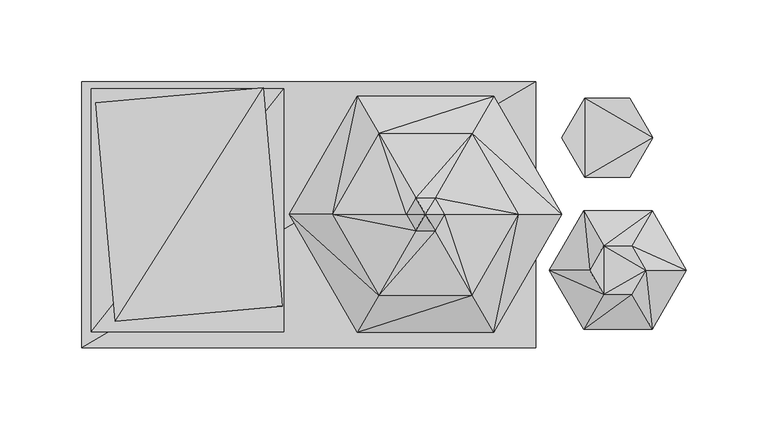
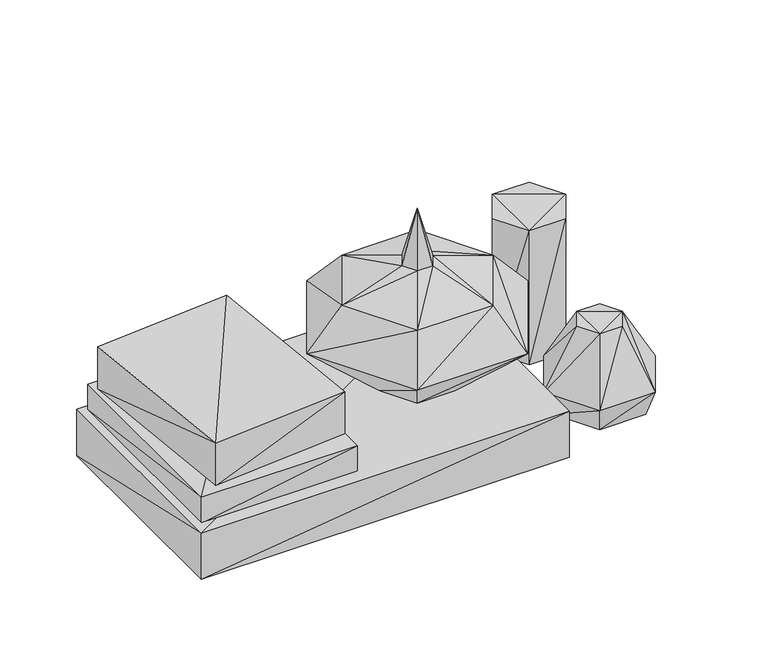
"""IFC4 building model written with IfcOpenShell, lengths in millimetres: geographic element geometry, Enscape AssetDefinition - Decoration Collection : Enscape AssetDefinition - Decoration Collection."""

from ifc_helpers import new_model, si_unit, origin, place, context, project, spatial, faceted_brep, source, transform, mapped, element, save


def geographic_element_5165f58f(model_context):
    return source(origin(), model_context, "Body", "Brep", [
        faceted_brep([(190.4051155, -34.210261, 0.0), (173.0093509, -64.3390864, 0.0), (138.2188499, -64.3390864, 0.0), (176.5386164, -70.4513565, 19.9579783), (197.4626333, -34.210261, 19.9579783), (134.6906126, -70.4513565, 19.9579783), (138.2188499, -4.0803994, 0.0), (120.8241209, -34.210261, 0.0), (176.5386164, 2.0318809, 19.9579783), (173.0093509, -4.0803994, 0.0), (134.6906126, 2.0318809, 19.9579783), (113.765575, -34.210261, 19.9579783), (138.6233568, -34.210261, 63.9605746), (147.1189857, -48.9242375, 63.9605746), (147.1189857, -19.4952413, 63.9605746), (164.1102433, -19.4952413, 63.9605746), (172.6058722, -34.210261, 63.9605746), (164.1102433, -48.9242375, 63.9605746)], [[[0, 1, 2]], [[3, 1, 4]], [[3, 2, 1]], [[4, 1, 0]], [[5, 2, 3]], [[6, 2, 7]], [[0, 2, 6]], [[5, 7, 2]], [[4, 0, 8]], [[0, 6, 9]], [[8, 0, 9]], [[10, 6, 11]], [[10, 9, 6]], [[11, 6, 7]], [[11, 7, 5]], [[12, 11, 13]], [[12, 10, 11]], [[13, 11, 5]], [[8, 9, 10]], [[14, 10, 12]], [[14, 8, 10]], [[15, 8, 14]], [[15, 4, 8]], [[14, 16, 15]], [[13, 14, 12]], [[13, 16, 14]], [[13, 17, 16]], [[13, 5, 17]], [[16, 4, 15]], [[17, 3, 16]], [[16, 3, 4]], [[17, 5, 3]]]),
        faceted_brep([(176.9057065, 46.6791838, -0.0010399), (163.0443931, 22.6699244, -0.0010399), (135.3207678, 22.6699244, -0.0010399), (163.0443931, 22.6699244, 106.7080572), (176.9057065, 46.6791838, 106.7080572), (135.3207678, 22.6699244, 106.7080572), (135.3207678, 70.6884488, -0.0010399), (121.4584336, 46.6791838, -0.0010399), (163.0443931, 70.6884488, 106.7080572), (163.0443931, 70.6884488, -0.0010399), (135.3207678, 70.6884488, 106.7080572), (121.4584336, 46.6791838, 106.7080572)], [[[0, 1, 2]], [[3, 1, 4]], [[3, 2, 1]], [[4, 1, 0]], [[5, 2, 3]], [[6, 2, 7]], [[0, 2, 6]], [[5, 7, 2]], [[4, 0, 8]], [[0, 6, 9]], [[8, 0, 9]], [[10, 6, 11]], [[10, 9, 6]], [[11, 6, 7]], [[11, 7, 5]], [[5, 10, 11]], [[5, 3, 4]], [[5, 4, 10]], [[10, 4, 8]], [[8, 9, 10]]]),
        faceted_brep([(66.2451386, 0.0, 36.8920527), (52.140519, -24.4293623, 36.8920527), (23.9323135, -24.4293623, 36.8920527), (79.7102526, -72.1816868, 85.7445374), (121.3845983, 0.0, 85.7445374), (-3.6374202, -72.1816868, 85.7445374), (23.9323135, 24.4293623, 36.8920527), (9.8276902, 0.0, 36.8920527), (79.7102526, 72.1816868, 85.7445374), (52.140519, 24.4293623, 36.8920527), (-3.6374202, 72.1816868, 85.7445374), (-45.3117751, 0.0, 85.7445374), (-19.1198532, 0.0, 115.2244881), (9.4585409, -49.4992808, 115.2244881), (9.4585409, 49.4992808, 115.2244881), (66.6142851, 49.4992808, 115.2244881), (32.1991742, 10.1094907, 130.9055388), (26.3624601, 0.0, 130.9055388), (32.1991742, -10.1094907, 130.9055388), (38.0369313, 0.0, 172.6131737), (43.8736528, 10.1094907, 130.9055388), (95.1926783, 0.0, 115.2244881), (66.6142851, -49.4992808, 115.2244881), (49.7103706, 0.0, 130.9055388), (43.8736528, -10.1094907, 130.9055388)], [[[0, 1, 2]], [[3, 1, 4]], [[3, 2, 1]], [[4, 1, 0]], [[5, 2, 3]], [[6, 2, 7]], [[0, 2, 6]], [[5, 7, 2]], [[4, 0, 8]], [[0, 6, 9]], [[8, 0, 9]], [[10, 6, 11]], [[10, 9, 6]], [[11, 6, 7]], [[11, 7, 5]], [[12, 11, 13]], [[12, 10, 11]], [[13, 11, 5]], [[8, 9, 10]], [[14, 10, 12]], [[14, 8, 10]], [[15, 8, 14]], [[15, 4, 8]], [[16, 14, 17]], [[16, 15, 14]], [[17, 14, 12]], [[17, 12, 18]], [[18, 12, 13]], [[19, 16, 17]], [[19, 17, 18]], [[20, 15, 16]], [[19, 20, 16]], [[21, 4, 15]], [[20, 21, 15]], [[21, 3, 4]], [[22, 3, 21]], [[23, 21, 20]], [[23, 22, 21]], [[19, 23, 20]], [[19, 18, 24]], [[19, 24, 23]], [[18, 13, 24]], [[24, 22, 23]], [[24, 13, 22]], [[13, 5, 22]], [[22, 5, 3]]]),
        faceted_brep([(105.3583249, -81.7306936, -0.0010399), (-172.1327454, -81.7306936, -0.0010399), (105.3583249, 80.8915272, -0.0010399), (-172.1327454, -81.7306936, 36.7828682), (105.3583249, -81.7306936, 36.7828682), (-172.1327454, 80.8915272, -0.0010399), (105.3583249, 80.8915272, 36.7828682), (-172.1327454, 80.8915272, 36.7828682)], [[[0, 1, 2]], [[3, 1, 4]], [[2, 1, 5]], [[4, 1, 0]], [[3, 5, 1]], [[6, 2, 7]], [[6, 0, 2]], [[7, 2, 5]], [[4, 0, 6]], [[6, 3, 4]], [[7, 3, 6]], [[7, 5, 3]]]),
        faceted_brep([(-48.69131, -71.8967617, 36.7735103), (-166.2014127, -71.8967617, 36.7735103), (-48.69131, 76.7653733, 36.7735103), (-166.2014127, -71.8967617, 57.3865958), (-48.69131, -71.8967617, 57.3865958), (-166.2014127, 76.7653733, 36.7735103), (-48.69131, 76.7653733, 57.3865958), (-166.2014127, 76.7653733, 57.3865958)], [[[0, 1, 2]], [[3, 1, 4]], [[2, 1, 5]], [[4, 1, 0]], [[3, 5, 1]], [[6, 2, 7]], [[6, 0, 2]], [[7, 2, 5]], [[4, 0, 6]], [[6, 3, 4]], [[7, 3, 6]], [[7, 5, 3]]]),
        faceted_brep([(-49.4264886, -56.4819165, 57.5644113), (-151.7962664, -65.4371679, 57.5644113), (-61.1113645, 77.0918876, 57.3637187), (-151.8004239, -65.3872564, 91.1725983), (-49.4306497, -56.432005, 91.1725983), (-163.4811461, 68.1366399, 57.3637187), (-61.1155257, 77.1428421, 90.971902), (-163.4853035, 68.1865513, 91.1725983)], [[[0, 1, 2]], [[3, 1, 4]], [[2, 1, 5]], [[4, 1, 0]], [[3, 5, 1]], [[6, 2, 7]], [[6, 0, 2]], [[7, 2, 5]], [[4, 0, 6]], [[6, 3, 4]], [[7, 3, 6]], [[7, 5, 3]]]),
    ])


if __name__ == "__main__":
    model = new_model("IFC4")
    model_context = context("Model", 3, world=origin())
    ifc_project = project(units=[si_unit("LENGTHUNIT", "METRE", prefix="MILLI")], contexts=[model_context])
    site = spatial("IfcSite", under=ifc_project)
    building = spatial("IfcBuilding", under=site)
    placement = place(None, origin())
    geographic_element_shape = geographic_element_5165f58f(model_context)
    element("IfcGeographicElement", 1, ObjectType="Enscape AssetDefinition - Decoration Collection : Enscape AssetDefinition - Decoration Collection", at=placement, inside=building, context=model_context, shape_type="MappedRepresentation", body=[
        mapped(geographic_element_shape, transform((0.0, 0.0, 0.0), x_axis=(1.0, 0.0, 0.0), y_axis=(0.0, 1.0, 0.0), z_axis=(0.0, 0.0, 1.0))),
    ])
    save(model, "model.ifc")
